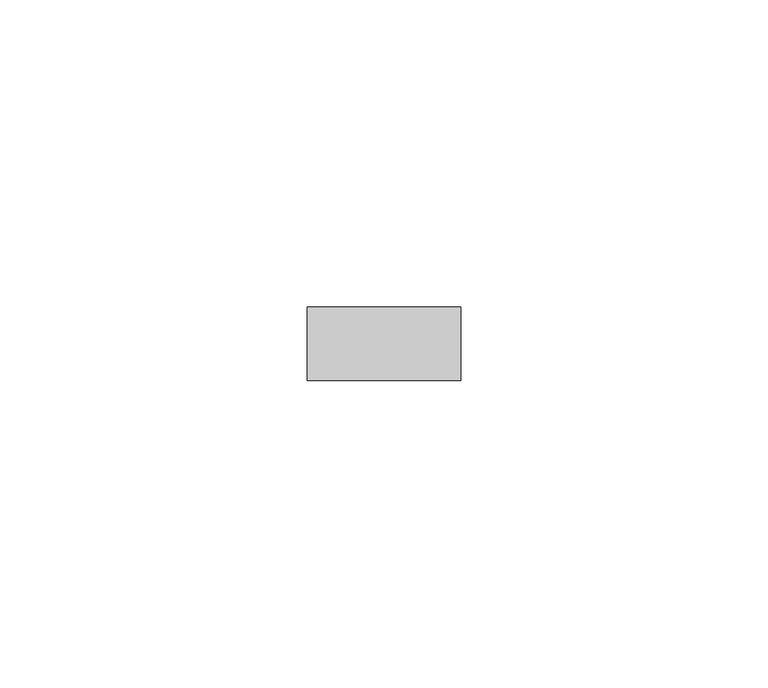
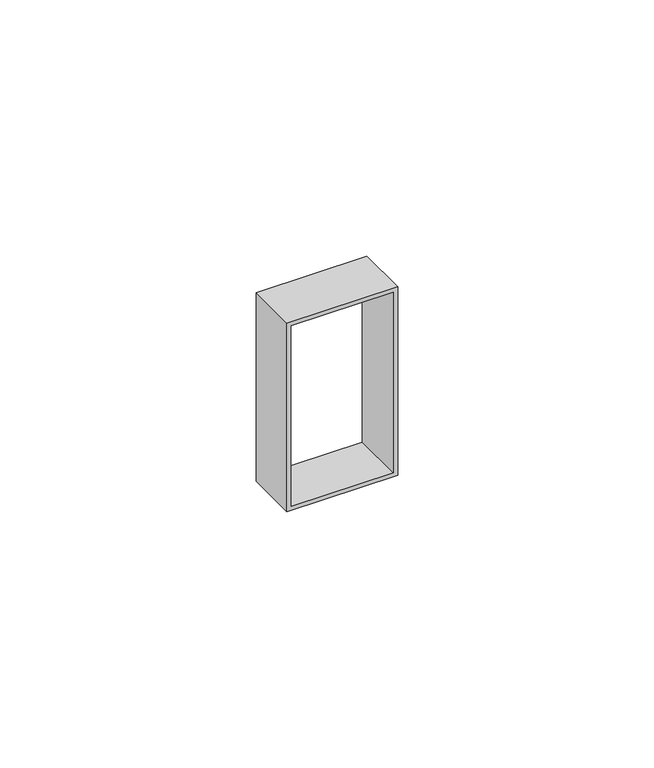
"""IFC4 building model written with IfcOpenShell, lengths in millimetres: proxy geometry, КНС_СуппортДляМонтажаЭУИСерииVivaНаDIN-рейкуИлиМонтажнуюПлату_DKC : 1 модуль."""

import ifcopenshell
import ifcopenshell.guid

model = None  # the IFC model being written
_history = None  # IfcOwnerHistory: only IFC2X3 demands one
_inside = {}  # id of a spatial element -> (the spatial element, [elements in it])
_under = {}  # id of a project, library or spatial element -> (it, [spatial elements below it])
_declared = {}  # id of a project -> (the project, [libraries it declares])
_typed = {}  # id of a type object -> (the type object, [elements of that type])
_made_of = {}  # id of a material, layer set ... -> (it, [elements and type objects made of it])


def new_model(schema):
    """Start an empty IFC model of exactly this schema.

    Asked for "IFC4X3", IfcOpenShell would pick the latest addendum, in which some entities
    have other attributes; the version numbers below select the first issue.
    IFC2X3 requires an IfcOwnerHistory on every rooted entity: one is made here for all.
    """
    global model, _history
    if schema == "IFC4X3":
        model = ifcopenshell.file(schema_version=(4, 3, 0, 0))
    else:
        model = ifcopenshell.file(schema=schema)
    _inside.clear()
    _under.clear()
    _declared.clear()
    _typed.clear()
    _made_of.clear()
    _history = None
    if model.schema == "IFC2X3":
        org = make("IfcOrganization", Name="unknown")
        user = make(
            "IfcPersonAndOrganization",
            ThePerson=make("IfcPerson", FamilyName="unknown"),
            TheOrganization=org,
        )
        app = make(
            "IfcApplication",
            ApplicationDeveloper=org,
            Version="unknown",
            ApplicationFullName="unknown",
            ApplicationIdentifier="unknown",
        )
        _history = make(
            "IfcOwnerHistory",
            OwningUser=user,
            OwningApplication=app,
            ChangeAction="ADDED",
            CreationDate=0,
        )
    return model


def make(cls, **values):
    """One entity of the class cls with the attributes given. An attribute that is None is left unset."""
    return model.create_entity(
        cls, **{name: value for name, value in values.items() if value is not None}
    )


def rooted(cls, **values):
    """An entity with a GlobalId (a new one), such as an element, a storey or a relation."""
    return make(cls, GlobalId=ifcopenshell.guid.new(), OwnerHistory=_history, **values)


def si_unit(unit_type, name, prefix=None):
    """IfcSIUnit, for example si_unit("LENGTHUNIT", "METRE", prefix="MILLI")."""
    return make("IfcSIUnit", UnitType=unit_type, Prefix=prefix, Name=name)


def assignment(units):
    """IfcUnitAssignment: the units of a project."""
    return None if units is None else make("IfcUnitAssignment", Units=units)


def point(xyz):
    """IfcCartesianPoint."""
    return None if xyz is None else make("IfcCartesianPoint", Coordinates=xyz)


def direction(xyz):
    """IfcDirection."""
    return None if xyz is None else make("IfcDirection", DirectionRatios=xyz)


def frame(location, z_axis=None, x_axis=None):
    """IfcAxis2Placement3D, a coordinate frame: its origin and axes. An axis left out is left unset."""
    return make(
        "IfcAxis2Placement3D",
        Location=point(location),
        Axis=direction(z_axis),
        RefDirection=direction(x_axis),
    )


def origin():
    """The frame at (0, 0, 0) with its axes left unset."""
    return frame((0.0, 0.0, 0.0))


def place(relative_to, where):
    """IfcLocalPlacement: puts the frame where relative to a parent placement (None: the world)."""
    return make(
        "IfcLocalPlacement", PlacementRelTo=relative_to, RelativePlacement=where
    )


def context(
    kind, dimensions, precision=None, world=None, true_north=None, identifier=None
):
    """IfcGeometricRepresentationContext, for example the 3D "Model" context."""
    return make(
        "IfcGeometricRepresentationContext",
        ContextIdentifier=identifier,
        ContextType=kind,
        CoordinateSpaceDimension=dimensions,
        Precision=precision,
        WorldCoordinateSystem=world,
        TrueNorth=true_north,
    )


def project(units=None, contexts=None):
    """IfcProject with its units and contexts."""
    return rooted(
        "IfcProject",
        Name="project",
        RepresentationContexts=contexts,
        UnitsInContext=assignment(units),
    )


def spatial(cls, under=None, at=None, **own):
    """A site, building, storey or space (cls), placed at a placement, below another one or the project."""
    s = rooted(cls, ObjectPlacement=at, **own)
    if under is not None:
        _under.setdefault(under.id(), (under, []))[1].append(s)
    return s


def polyline(points):
    """IfcPolyline through the points."""
    return make("IfcPolyline", Points=[point(p) for p in points])


def outline(outer, holes=None, kind="AREA"):
    """IfcArbitraryClosedProfileDef: a profile drawn as a closed curve; with holes, ...WithVoids."""
    if holes is None:
        return make("IfcArbitraryClosedProfileDef", ProfileType=kind, OuterCurve=outer)
    return make(
        "IfcArbitraryProfileDefWithVoids",
        ProfileType=kind,
        OuterCurve=outer,
        InnerCurves=holes,
    )


def extrude(swept, where, along, depth):
    """IfcExtrudedAreaSolid: the profile swept, set in the frame where, extruded along a direction by depth."""
    return make(
        "IfcExtrudedAreaSolid",
        SweptArea=swept,
        Position=where,
        ExtrudedDirection=direction(along),
        Depth=depth,
    )


def shape(context_of_items, identifier, shape_type, items):
    """IfcShapeRepresentation: the items that make up one representation, for example the "Body"."""
    return make(
        "IfcShapeRepresentation",
        ContextOfItems=context_of_items,
        RepresentationIdentifier=identifier,
        RepresentationType=shape_type,
        Items=items,
    )


def source(mapping_origin, context_of_items, identifier, shape_type, items):
    """IfcRepresentationMap: a shape defined once, which mapped items show again and again."""
    return make(
        "IfcRepresentationMap",
        MappingOrigin=mapping_origin,
        MappedRepresentation=shape(context_of_items, identifier, shape_type, items),
    )


def transform(
    local_origin,
    x_axis=None,
    y_axis=None,
    z_axis=None,
    scale=None,
    scale2=None,
    scale3=None,
    uniform=True,
):
    """IfcCartesianTransformationOperator3D, or its non-uniform kind. x_axis, y_axis, z_axis: its Axis1, 2, 3."""
    if uniform:
        return make(
            "IfcCartesianTransformationOperator3D",
            Axis1=direction(x_axis),
            Axis2=direction(y_axis),
            LocalOrigin=point(local_origin),
            Scale=scale,
            Axis3=direction(z_axis),
        )
    return make(
        "IfcCartesianTransformationOperator3DnonUniform",
        Axis1=direction(x_axis),
        Axis2=direction(y_axis),
        LocalOrigin=point(local_origin),
        Scale=scale,
        Axis3=direction(z_axis),
        Scale2=scale2,
        Scale3=scale3,
    )


def mapped(mapping_source, mapping_target):
    """IfcMappedItem: shows the shape of a source again, moved by a transform."""
    return make(
        "IfcMappedItem", MappingSource=mapping_source, MappingTarget=mapping_target
    )


def made_of(thing, what):
    """Note that an element or type object is made of a material, layer set ...; save() writes the relation."""
    if what is not None:
        _made_of.setdefault(what.id(), (what, []))[1].append(thing)
    return thing


def element(
    cls,
    number,
    at=None,
    inside=None,
    cuts=None,
    type_object=None,
    material=None,
    context=None,
    identifier="Body",
    shape_type=None,
    held_by="IfcProductDefinitionShape",
    body=None,
    shapes=None,
    **own,
):
    """One element of the class cls, such as IfcWall. Its Tag is "e" and its number.

    at: its placement. inside: the storey or other place that contains it. cuts: it is an
    opening in that element (IfcRelVoidsElement). A single representation is given by context,
    identifier, shape_type and body (its items); several are given by shapes. held_by: the class
    of the entity that holds the representations. save() writes the other relations.
    """
    e = rooted(cls, Tag="e%d" % number, ObjectPlacement=at, **own)
    if body is not None:
        shapes = [shape(context, identifier, shape_type, body)]
    if shapes is not None:
        e.Representation = make(held_by, Representations=shapes)
    if inside is not None:
        _inside.setdefault(inside.id(), (inside, []))[1].append(e)
    if cuts is not None:
        rooted(
            "IfcRelVoidsElement", RelatingBuildingElement=cuts, RelatedOpeningElement=e
        )
    if type_object is not None:
        _typed.setdefault(type_object.id(), (type_object, []))[1].append(e)
    return made_of(e, material)


def aggregate(whole, parts):
    """IfcRelAggregates: a whole, such as a stair, and the parts it consists of."""
    return rooted("IfcRelAggregates", RelatingObject=whole, RelatedObjects=parts)


def save(model, path):
    """Write the relations noted so far, then the file.

    IfcRelAggregates (storeys below a building ...), IfcRelContainedInSpatialStructure (elements
    in a storey), IfcRelDefinesByType, IfcRelAssociatesMaterial and IfcRelDeclares: one each for
    every whole, place, type object, material and project.
    """
    for whole, parts in _under.values():
        aggregate(whole, parts)
    for where, things in _inside.values():
        rooted(
            "IfcRelContainedInSpatialStructure",
            RelatedElements=things,
            RelatingStructure=where,
        )
    for kind, things in _typed.values():
        rooted("IfcRelDefinesByType", RelatedObjects=things, RelatingType=kind)
    for what, things in _made_of.values():
        rooted("IfcRelAssociatesMaterial", RelatedObjects=things, RelatingMaterial=what)
    for by, libraries in _declared.values():
        rooted("IfcRelDeclares", RelatingContext=by, RelatedDefinitions=libraries)
    model.write(path)


def electrical_fixtures_416891ac(model_context):
    return source(origin(), model_context, "Body", "SweptSolid", [
        extrude(outline(polyline([(22.5, 12.5), (22.5, -12.5), (-22.5, -12.5), (-22.5, 12.5), (22.5, 12.5)]), holes=[polyline([(21.5, 11.5), (-21.5, 11.5), (-21.5, -11.5), (21.5, -11.5), (21.5, 11.5)])]), frame((0.0, 0.0, 0.0), z_axis=(0.0, 1.0, 0.0), x_axis=(0.0, 0.0, 1.0)), (0.0, 0.0, 1.0), 12.0),
    ])


if __name__ == "__main__":
    model = new_model("IFC4")
    model_context = context("Model", 3, world=origin())
    ifc_project = project(units=[si_unit("LENGTHUNIT", "METRE", prefix="MILLI")], contexts=[model_context])
    site = spatial("IfcSite", under=ifc_project)
    building = spatial("IfcBuilding", under=site)
    placement = place(None, origin())
    electrical_fixtures_shape = electrical_fixtures_416891ac(model_context)
    element("IfcBuildingElementProxy", 1, Name="КНС_СуппортДляМонтажаЭУИСерииVivaНаDIN-рейкуИлиМонтажнуюПлату_DKC : 1 модуль", ObjectType="КНС_СуппортДляМонтажаЭУИСерииVivaНаDIN-рейкуИлиМонтажнуюПлату_DKC : 1 модуль", at=placement, inside=building, context=model_context, shape_type="MappedRepresentation", body=[
        mapped(electrical_fixtures_shape, transform((0.0, 0.0, 0.0), x_axis=(1.0, 0.0, 0.0), y_axis=(0.0, 1.0, 0.0), z_axis=(0.0, 0.0, 1.0))),
    ])
    save(model, "model.ifc")
